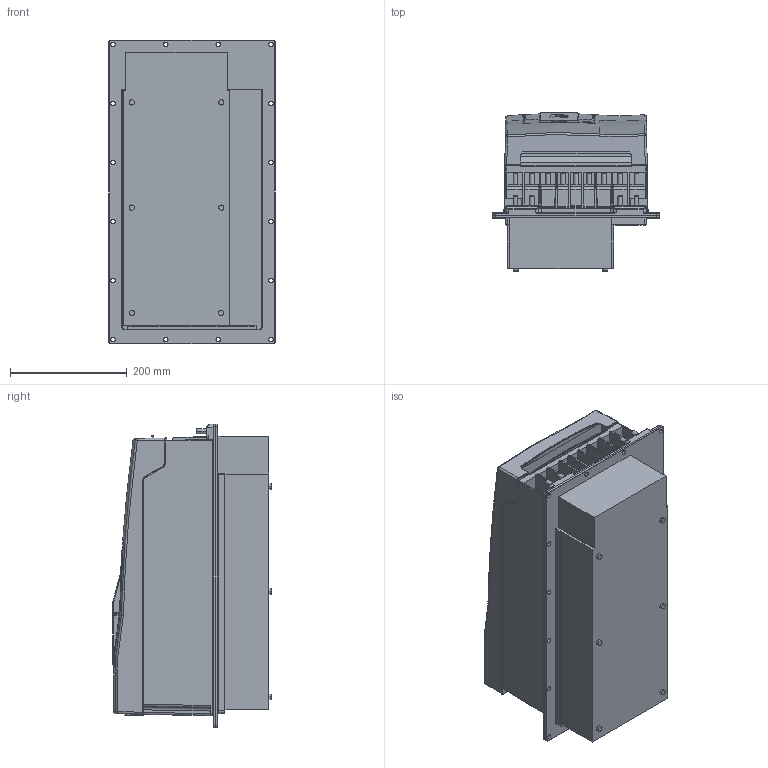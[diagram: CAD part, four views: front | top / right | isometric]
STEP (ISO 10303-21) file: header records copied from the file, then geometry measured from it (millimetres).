
FILE_DESCRIPTION (( 'STEP AP214' ), '1' );
FILE_NAME ('F6-6 TR5-A030.STEP', '2020-12-07T07:23:07', ( '' ), ( '' ), 'SwSTEP 2.0', 'SolidWorks 2019', '' );
FILE_SCHEMA (( 'AUTOMOTIVE_DESIGN' ));
Length unit declared in the file: millimetre
Products named in the file (11): 10059764_000_Blindabdeckung (Kundenmodell); 10061939_000; 10061793_000_Deckelbaugruppe F6-6 (Kundenmodell); 10061794_000; 10060787_000; 10046128_000_Basis Leistungsteil F6-6 TR5 (Kundenmodell); 10027052_000_Geh„usebaugruppe F6-6 (Kundenmodell); 10035736_000_Kundenmodell; 10059765_000; F6-6 TR5-A030; 10059763_000
Assembly tree (10 placements, depth 4):
  F6-6 TR5-A030
    10046128_000_Basis Leistungsteil F6-6 TR5 (Kundenmodell)
      10061939_000
    10027052_000_Geh„usebaugruppe F6-6 (Kundenmodell)
      10061793_000_Deckelbaugruppe F6-6 (Kundenmodell)
        10061794_000
      10060787_000
    10035736_000_Kundenmodell
      10059764_000_Blindabdeckung (Kundenmodell)
        10059765_000
      10059763_000
Bounding box: 285 x 270.9 x 520 mm (x, y, z)
Volume: 25671738.2 mm3; surface area: 1331527.2 mm2
Topology: 12 solids, 19 shells, 3132 faces, 7812 edges, 4652 vertices
Faces by surface type: cylinder 1089, plane 1028, bspline 632, torus 194, sphere 107, cone 82
Entity records: 105249 total; most frequent: CARTESIAN_POINT 35627, ORIENTED_EDGE 15312, DIRECTION 13446, EDGE_CURVE 7656, AXIS2_PLACEMENT_3D 4870, VERTEX_POINT 4650, VECTOR 3706, LINE 3706
